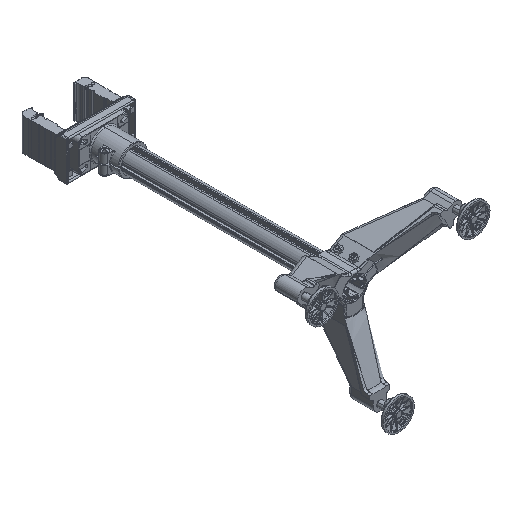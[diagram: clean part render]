
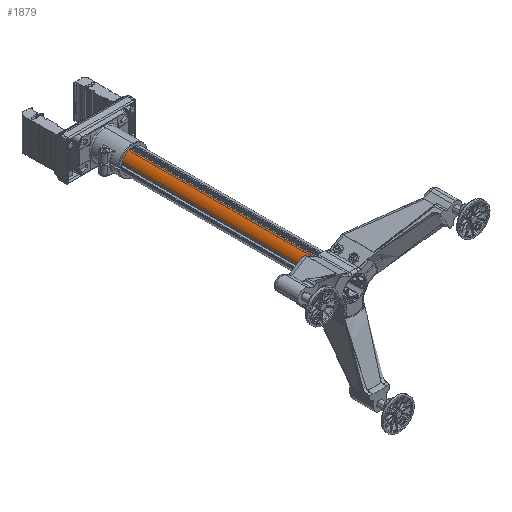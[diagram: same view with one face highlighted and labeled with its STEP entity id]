
A CAD part, isometric view. The second image highlights one B-rep face of the part: STEP entity #1879.
In plain terms, the highlighted cylindrical face has radius 30.15 mm (diameter 60.3 mm), a partial arc.
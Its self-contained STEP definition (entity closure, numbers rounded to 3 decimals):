
#1823 = VERTEX_POINT ( 'NONE', #33037 ) ;
#1824 = EDGE_CURVE ( 'NONE', #1825, #1900, #33031, .T. ) ;
#1825 = VERTEX_POINT ( 'NONE', #33042 ) ;
#1872 = EDGE_CURVE ( 'NONE', #1876, #1900, #32127, .T. ) ;
#1876 = VERTEX_POINT ( 'NONE', #33170 ) ;
#1879 = ADVANCED_FACE ( 'NONE', ( #33158 ), #33167, .T. ) ;
#1880 = ORIENTED_EDGE ( 'NONE', *, *, #1934, .T. ) ;
#1882 = ORIENTED_EDGE ( 'NONE', *, *, #1930, .F. ) ;
#1883 = ORIENTED_EDGE ( 'NONE', *, *, #1872, .F. ) ;
#1898 = EDGE_LOOP ( 'NONE', ( #1883, #1882, #1880, #1932 ) ) ;
#1900 = VERTEX_POINT ( 'NONE', #33140 ) ;
#1930 = EDGE_CURVE ( 'NONE', #1823, #1876, #33259, .T. ) ;
#1932 = ORIENTED_EDGE ( 'NONE', *, *, #1824, .T. ) ;
#1934 = EDGE_CURVE ( 'NONE', #1823, #1825, #33271, .T. ) ;
#32118 = DIRECTION ( 'NONE',  ( 0., 0., 1. ) ) ;
#32124 = CARTESIAN_POINT ( 'NONE',  ( 0., 0., 0. ) ) ;
#32127 = CIRCLE ( 'NONE', #32132, 30.15 ) ;
#32131 = DIRECTION ( 'NONE',  ( 0., 1., 0. ) ) ;
#32132 = AXIS2_PLACEMENT_3D ( 'NONE', #32124, #32131, #32118 ) ;
#33028 = DIRECTION ( 'NONE',  ( 0., 1., 0. ) ) ;
#33029 = VECTOR ( 'NONE', #33028, 1000. ) ;
#33030 = CARTESIAN_POINT ( 'NONE',  ( -29., -662., -8.248 ) ) ;
#33031 = LINE ( 'NONE', #33030, #33029 ) ;
#33037 = CARTESIAN_POINT ( 'NONE',  ( -8.248, -662., -29. ) ) ;
#33042 = CARTESIAN_POINT ( 'NONE',  ( -29., -662., -8.248 ) ) ;
#33140 = CARTESIAN_POINT ( 'NONE',  ( -29., 0., -8.248 ) ) ;
#33152 = DIRECTION ( 'NONE',  ( 0., 0., 1. ) ) ;
#33153 = DIRECTION ( 'NONE',  ( 0., 1., 0. ) ) ;
#33156 = AXIS2_PLACEMENT_3D ( 'NONE', #33169, #33153, #33152 ) ;
#33158 = FACE_OUTER_BOUND ( 'NONE', #1898, .T. ) ;
#33167 = CYLINDRICAL_SURFACE ( 'NONE', #33156, 30.15 ) ;
#33169 = CARTESIAN_POINT ( 'NONE',  ( 0., -662., 0. ) ) ;
#33170 = CARTESIAN_POINT ( 'NONE',  ( -8.248, 0., -29. ) ) ;
#33259 = LINE ( 'NONE', #33288, #33287 ) ;
#33260 = DIRECTION ( 'NONE',  ( 0., 0., 1. ) ) ;
#33261 = DIRECTION ( 'NONE',  ( 0., 1., 0. ) ) ;
#33262 = CARTESIAN_POINT ( 'NONE',  ( 0., -662., 0. ) ) ;
#33263 = AXIS2_PLACEMENT_3D ( 'NONE', #33262, #33261, #33260 ) ;
#33271 = CIRCLE ( 'NONE', #33263, 30.15 ) ;
#33286 = DIRECTION ( 'NONE',  ( 0., 1., 0. ) ) ;
#33287 = VECTOR ( 'NONE', #33286, 1000. ) ;
#33288 = CARTESIAN_POINT ( 'NONE',  ( -8.248, -662., -29. ) ) ;
